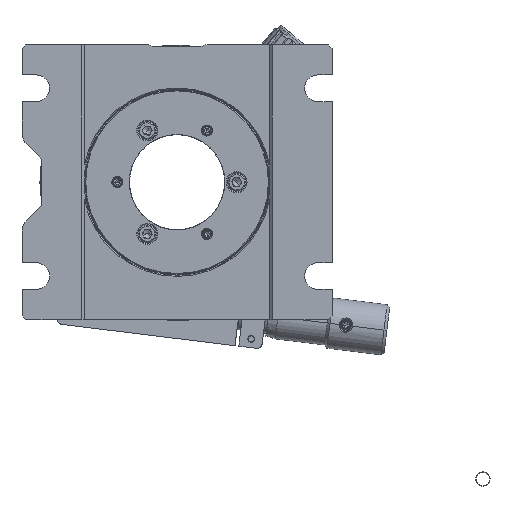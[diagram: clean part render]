
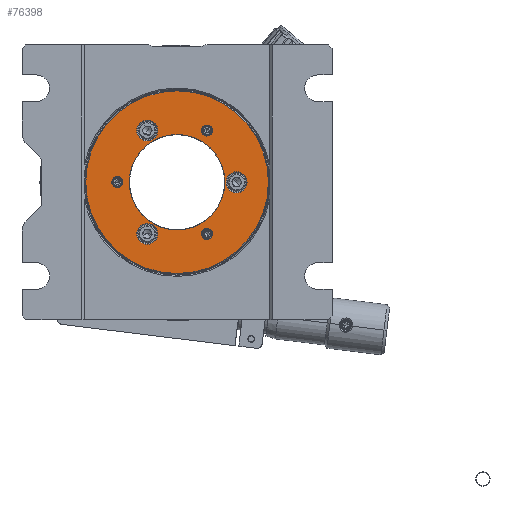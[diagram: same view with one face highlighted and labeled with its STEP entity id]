
A CAD part, front view. The second image highlights one B-rep face of the part: STEP entity #76398.
In plain terms, the highlighted planar face has unit normal (0, -1, 0).
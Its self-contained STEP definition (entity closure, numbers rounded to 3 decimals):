
#75715=CARTESIAN_POINT('',(0.,1.791,0.));
#75716=DIRECTION('',(0.,1.,0.));
#75717=DIRECTION('',(1.,0.,0.));
#75718=AXIS2_PLACEMENT_3D('',#75715,#75716,#75717);
#75720=CARTESIAN_POINT('',(0.,1.791,0.));
#75721=DIRECTION('',(0.,1.,0.));
#75722=DIRECTION('',(-1.,0.,0.));
#75723=AXIS2_PLACEMENT_3D('',#75720,#75721,#75722);
#75725=CARTESIAN_POINT('',(-15.875,1.791,0.));
#75726=DIRECTION('',(0.,1.,0.));
#75727=DIRECTION('',(-1.,0.,0.));
#75728=AXIS2_PLACEMENT_3D('',#75725,#75726,#75727);
#75730=CARTESIAN_POINT('',(-15.875,1.791,0.));
#75731=DIRECTION('',(0.,1.,0.));
#75732=DIRECTION('',(1.,0.,0.));
#75733=AXIS2_PLACEMENT_3D('',#75730,#75731,#75732);
#75735=CARTESIAN_POINT('',(7.938,1.791,13.748));
#75736=DIRECTION('',(0.,1.,0.));
#75737=DIRECTION('',(-1.,0.,0.));
#75738=AXIS2_PLACEMENT_3D('',#75735,#75736,#75737);
#75740=CARTESIAN_POINT('',(7.938,1.791,13.748));
#75741=DIRECTION('',(0.,1.,0.));
#75742=DIRECTION('',(1.,0.,0.));
#75743=AXIS2_PLACEMENT_3D('',#75740,#75741,#75742);
#75745=CARTESIAN_POINT('',(7.938,1.791,-13.748));
#75746=DIRECTION('',(0.,1.,0.));
#75747=DIRECTION('',(-1.,0.,0.));
#75748=AXIS2_PLACEMENT_3D('',#75745,#75746,#75747);
#75750=CARTESIAN_POINT('',(7.938,1.791,-13.748));
#75751=DIRECTION('',(0.,1.,0.));
#75752=DIRECTION('',(1.,0.,0.));
#75753=AXIS2_PLACEMENT_3D('',#75750,#75751,#75752);
#75755=CARTESIAN_POINT('',(-7.938,1.791,13.748));
#75756=DIRECTION('',(0.,1.,0.));
#75757=DIRECTION('',(1.,0.,0.));
#75758=AXIS2_PLACEMENT_3D('',#75755,#75756,#75757);
#75760=CARTESIAN_POINT('',(-7.938,1.791,13.748));
#75761=DIRECTION('',(0.,1.,0.));
#75762=DIRECTION('',(-1.,0.,0.));
#75763=AXIS2_PLACEMENT_3D('',#75760,#75761,#75762);
#75765=CARTESIAN_POINT('',(-7.938,1.791,-13.748));
#75766=DIRECTION('',(0.,1.,0.));
#75767=DIRECTION('',(1.,0.,0.));
#75768=AXIS2_PLACEMENT_3D('',#75765,#75766,#75767);
#75770=CARTESIAN_POINT('',(-7.938,1.791,-13.748));
#75771=DIRECTION('',(0.,1.,0.));
#75772=DIRECTION('',(-1.,0.,0.));
#75773=AXIS2_PLACEMENT_3D('',#75770,#75771,#75772);
#75775=CARTESIAN_POINT('',(15.875,1.791,0.));
#75776=DIRECTION('',(0.,1.,0.));
#75777=DIRECTION('',(1.,0.,0.));
#75778=AXIS2_PLACEMENT_3D('',#75775,#75776,#75777);
#75780=CARTESIAN_POINT('',(15.875,1.791,0.));
#75781=DIRECTION('',(0.,1.,0.));
#75782=DIRECTION('',(-1.,0.,0.));
#75783=AXIS2_PLACEMENT_3D('',#75780,#75781,#75782);
#75785=CARTESIAN_POINT('',(0.,1.791,0.));
#75786=DIRECTION('',(0.,-1.,0.));
#75787=DIRECTION('',(-1.,0.,0.));
#75788=AXIS2_PLACEMENT_3D('',#75785,#75786,#75787);
#75790=CARTESIAN_POINT('',(0.,1.791,0.));
#75791=DIRECTION('',(0.,-1.,0.));
#75792=DIRECTION('',(1.,0.,0.));
#75793=AXIS2_PLACEMENT_3D('',#75790,#75791,#75792);
#76213=CARTESIAN_POINT('',(12.7,1.791,0.));
#76214=CARTESIAN_POINT('',(-12.7,1.791,0.));
#76215=VERTEX_POINT('',#76213);
#76216=VERTEX_POINT('',#76214);
#76273=CARTESIAN_POINT('',(-17.348,1.791,0.));
#76274=CARTESIAN_POINT('',(-14.402,1.791,0.));
#76275=VERTEX_POINT('',#76273);
#76276=VERTEX_POINT('',#76274);
#76281=CARTESIAN_POINT('',(6.464,1.791,13.748));
#76282=CARTESIAN_POINT('',(9.411,1.791,13.748));
#76283=VERTEX_POINT('',#76281);
#76284=VERTEX_POINT('',#76282);
#76289=CARTESIAN_POINT('',(6.464,1.791,-13.748));
#76290=CARTESIAN_POINT('',(9.411,1.791,-13.748));
#76291=VERTEX_POINT('',#76289);
#76292=VERTEX_POINT('',#76290);
#76297=CARTESIAN_POINT('',(-5.159,1.791,13.748));
#76298=CARTESIAN_POINT('',(-10.716,1.791,13.748));
#76299=VERTEX_POINT('',#76297);
#76300=VERTEX_POINT('',#76298);
#76305=CARTESIAN_POINT('',(-5.159,1.791,-13.748));
#76306=CARTESIAN_POINT('',(-10.716,1.791,-13.748));
#76307=VERTEX_POINT('',#76305);
#76308=VERTEX_POINT('',#76306);
#76313=CARTESIAN_POINT('',(18.653,1.791,0.));
#76314=CARTESIAN_POINT('',(13.097,1.791,0.));
#76315=VERTEX_POINT('',#76313);
#76316=VERTEX_POINT('',#76314);
#76321=CARTESIAN_POINT('',(-24.311,1.791,0.));
#76322=CARTESIAN_POINT('',(24.311,1.791,0.));
#76323=VERTEX_POINT('',#76321);
#76324=VERTEX_POINT('',#76322);
#76345=CARTESIAN_POINT('',(0.,1.791,0.));
#76346=DIRECTION('',(0.,-1.,0.));
#76347=DIRECTION('',(1.,0.,0.));
#76348=AXIS2_PLACEMENT_3D('',#76345,#76346,#76347);
#76349=PLANE('',#76348);
#76351=ORIENTED_EDGE('',*,*,#76350,.F.);
#76353=ORIENTED_EDGE('',*,*,#76352,.F.);
#76354=EDGE_LOOP('',(#76351,#76353));
#76355=FACE_OUTER_BOUND('',#76354,.F.);
#76357=ORIENTED_EDGE('',*,*,#76356,.F.);
#76359=ORIENTED_EDGE('',*,*,#76358,.F.);
#76360=EDGE_LOOP('',(#76357,#76359));
#76361=FACE_BOUND('',#76360,.F.);
#76363=ORIENTED_EDGE('',*,*,#76362,.F.);
#76365=ORIENTED_EDGE('',*,*,#76364,.F.);
#76366=EDGE_LOOP('',(#76363,#76365));
#76367=FACE_BOUND('',#76366,.F.);
#76369=ORIENTED_EDGE('',*,*,#76368,.F.);
#76371=ORIENTED_EDGE('',*,*,#76370,.F.);
#76372=EDGE_LOOP('',(#76369,#76371));
#76373=FACE_BOUND('',#76372,.F.);
#76375=ORIENTED_EDGE('',*,*,#76374,.F.);
#76377=ORIENTED_EDGE('',*,*,#76376,.F.);
#76378=EDGE_LOOP('',(#76375,#76377));
#76379=FACE_BOUND('',#76378,.F.);
#76381=ORIENTED_EDGE('',*,*,#76380,.F.);
#76383=ORIENTED_EDGE('',*,*,#76382,.F.);
#76384=EDGE_LOOP('',(#76381,#76383));
#76385=FACE_BOUND('',#76384,.F.);
#76387=ORIENTED_EDGE('',*,*,#76386,.F.);
#76389=ORIENTED_EDGE('',*,*,#76388,.F.);
#76390=EDGE_LOOP('',(#76387,#76389));
#76391=FACE_BOUND('',#76390,.F.);
#76393=ORIENTED_EDGE('',*,*,#76392,.F.);
#76395=ORIENTED_EDGE('',*,*,#76394,.F.);
#76396=EDGE_LOOP('',(#76393,#76395));
#76397=FACE_BOUND('',#76396,.F.);
#76398=ADVANCED_FACE('',(#76355,#76361,#76367,#76373,#76379,#76385,#76391,
#76397),#76349,.T.);
#75719=CIRCLE('',#75718,12.7);
#75724=CIRCLE('',#75723,12.7);
#75729=CIRCLE('',#75728,1.473);
#75734=CIRCLE('',#75733,1.473);
#75739=CIRCLE('',#75738,1.473);
#75744=CIRCLE('',#75743,1.473);
#75749=CIRCLE('',#75748,1.473);
#75754=CIRCLE('',#75753,1.473);
#75759=CIRCLE('',#75758,2.778);
#75764=CIRCLE('',#75763,2.778);
#75769=CIRCLE('',#75768,2.778);
#75774=CIRCLE('',#75773,2.778);
#75779=CIRCLE('',#75778,2.778);
#75784=CIRCLE('',#75783,2.778);
#75789=CIRCLE('',#75788,24.311);
#75794=CIRCLE('',#75793,24.311);
#76350=EDGE_CURVE('',#76323,#76324,#75789,.T.);
#76352=EDGE_CURVE('',#76324,#76323,#75794,.T.);
#76356=EDGE_CURVE('',#76275,#76276,#75729,.T.);
#76358=EDGE_CURVE('',#76276,#76275,#75734,.T.);
#76362=EDGE_CURVE('',#76283,#76284,#75739,.T.);
#76364=EDGE_CURVE('',#76284,#76283,#75744,.T.);
#76368=EDGE_CURVE('',#76291,#76292,#75749,.T.);
#76370=EDGE_CURVE('',#76292,#76291,#75754,.T.);
#76374=EDGE_CURVE('',#76299,#76300,#75759,.T.);
#76376=EDGE_CURVE('',#76300,#76299,#75764,.T.);
#76380=EDGE_CURVE('',#76307,#76308,#75769,.T.);
#76382=EDGE_CURVE('',#76308,#76307,#75774,.T.);
#76386=EDGE_CURVE('',#76315,#76316,#75779,.T.);
#76388=EDGE_CURVE('',#76316,#76315,#75784,.T.);
#76392=EDGE_CURVE('',#76215,#76216,#75719,.T.);
#76394=EDGE_CURVE('',#76216,#76215,#75724,.T.);
